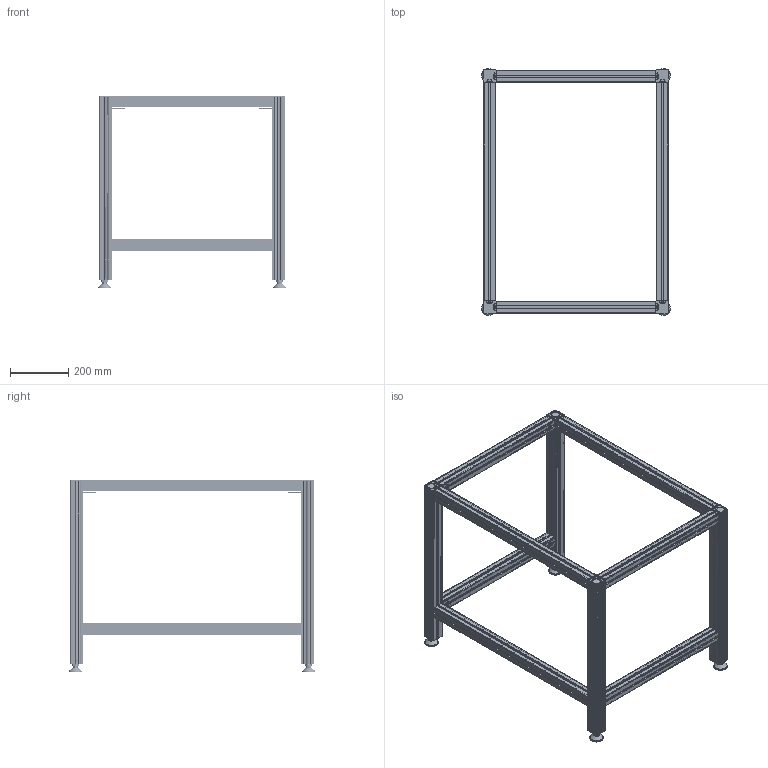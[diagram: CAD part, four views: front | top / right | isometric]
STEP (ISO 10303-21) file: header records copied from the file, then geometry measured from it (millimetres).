
FILE_DESCRIPTION(/* description */ ('Unknown'),/* implementation_level */ '2;1');
FILE_NAME(/* name */ '108.00404_eingefahren',/* time_stamp */ '2019-08-07T13:55:04+02:00',/* author */ ('Unknown'),/* organization */ ('Unknown'),/* preprocessor_version */ 'ST-DEVELOPER v16.7',/* originating_system */ 'DEX',/* authorisation */ $);
FILE_SCHEMA (('AUTOMOTIVE_DESIGN {1 0 10303 214 3 1 1}'));
Length unit declared in the file: millimetre
Products named in the file (34): 108.00404; 115.00101; 119.00191; 142.00210; 115.00100; 119.00190; 306.00414_oa_0; 142.00014; 119.00224; 122.00005; 142.00020; 113.00002_70mm; 124.00125; 128.00040; 106.00404_oa_1; 107.00404_oa_2; 115.00007_oa_3; 123.00104; 125.00051; 306.00414_oa_4; 106.00404_oa_5; 107.00404_oa_6; 115.00007_oa_7; 306.00414_oa_8; 106.00404_oa_9; 107.00404_oa_10; 115.00007_oa_11; 306.00414_oa_12; 106.00404_oa_13; 107.00404_oa_14; 115.00007_oa_15; 113.00006; 113.00052_ohne Mutter; Mutter M10
Assembly tree (87 placements, depth 5):
  108.00404
    115.00101  x3
      119.00191
      142.00210
    115.00100  x4
      119.00190
      142.00210
    306.00414_oa_0
      142.00014  x2
      119.00224
      122.00005
      142.00020  x4
      113.00002_70mm
      124.00125
      128.00040
      106.00404_oa_1
        107.00404_oa_2
          115.00007_oa_3
        123.00104
        125.00051
    306.00414_oa_4
      142.00014  x2
      119.00224
      122.00005
      142.00020  x4
      113.00002_70mm
      124.00125
      128.00040
      106.00404_oa_5
        107.00404_oa_6
          115.00007_oa_7
        123.00104
        125.00051
    306.00414_oa_8
      142.00014  x2
      119.00224
      122.00005
      142.00020  x4
      113.00002_70mm
      124.00125
      128.00040
      106.00404_oa_9
        107.00404_oa_10
          115.00007_oa_11
        123.00104
        125.00051
    306.00414_oa_12
      142.00014  x2
      119.00224
      122.00005
      142.00020  x4
      113.00002_70mm
      124.00125
      128.00040
      106.00404_oa_13
        107.00404_oa_14
          115.00007_oa_15
        123.00104
        125.00051
    113.00006  x4
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Bounding box: 650.82 x 850.82 x 663 mm (x, y, z)
Volume: 5741044 mm3; surface area: 3835840.7 mm2
Topology: 95 solids, 95 shells, 5997 faces, 16818 edges, 10833 vertices
Faces by surface type: plane 2644, cylinder 2607, cone 254, torus 190, bspline 176, sphere 126
Full cylindrical faces by diameter (mm): 2.2 x4, 2.5 x48, 3 x16, 4 x40, 5 x28, 6.647 x4, 7.8 x14, 8 x4, 8.376 x12, 9.5 x4, 10 x8, 11.3 x14, 11.5 x18, 12 x14, 12.2 x14, 13.5 x14, 13.7 x21, 15 x4, 16 x4, 17.3 x4, 18 x28, 18.1 x14, 19 x8, 20.8 x12, 21 x4, 24 x4, 25 x20, 29 x4, 30 x8, 35 x4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
Entity records: 48695 total; most frequent: CARTESIAN_POINT 10438, ORIENTED_EDGE 7762, DIRECTION 7718, EDGE_CURVE 3881, AXIS2_PLACEMENT_3D 2771, VERTEX_POINT 2576, LINE 2176, VECTOR 2176
